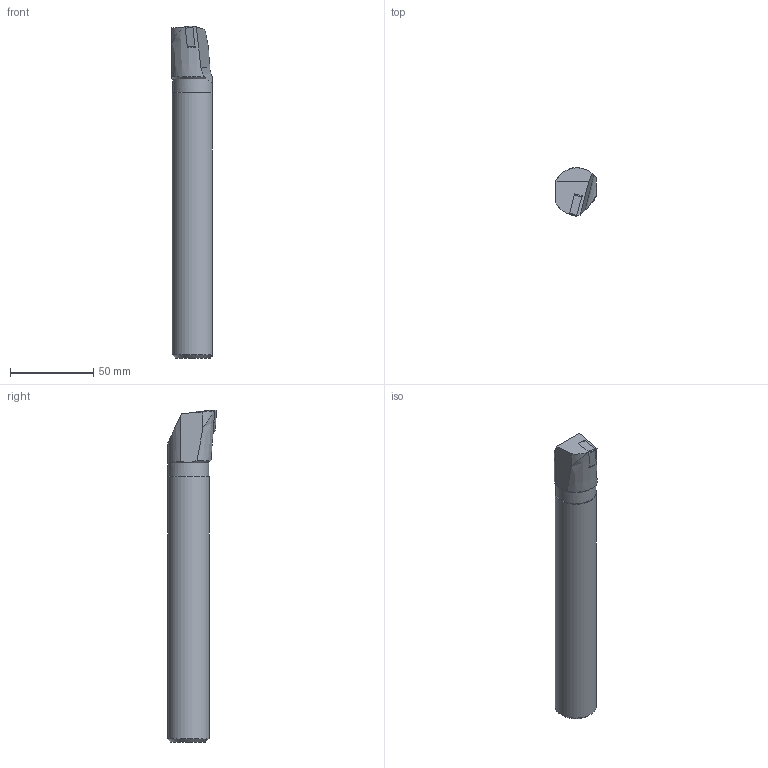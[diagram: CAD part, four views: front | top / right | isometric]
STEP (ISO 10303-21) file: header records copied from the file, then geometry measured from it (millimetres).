
FILE_DESCRIPTION(/* description */ (''),/* implementation_level */ '2;1');
FILE_NAME(/* name */ 'A25R-MCLNR-12-HAAS_210825.stp',/* time_stamp */ '2021-09-30T17:03:20+09:00',/* author */ (''),/* organization */ (''),/* preprocessor_version */ 'ST-DEVELOPER v15',/* originating_system */ 'SIEMENS PLM Software NX 8.5',/* authorisation */ '');
FILE_SCHEMA (('AP203_CONFIGURATION_CONTROLLED_3D_DESIGN_OF_MECHANICAL_PARTS_AND_ASSEMBLIES_MIM_LF { 1 0 10303 403 2 1 2}'));
Length unit declared in the file: millimetre
Products named in the file (1): userF2984F2A8mae
Bounding box: 24.1 x 29.49 x 200 mm (x, y, z)
Volume: 94894.5 mm3; surface area: 16916.8 mm2
Topology: 2 solids, 2 shells, 29 faces, 72 edges, 47 vertices
Faces by surface type: plane 12, cylinder 9, cone 7, bspline 1
Full cylindrical faces by diameter (mm): 5.16 x1
Entity records: 1007 total; most frequent: CARTESIAN_POINT 253, ORIENTED_EDGE 134, DIRECTION 133, EDGE_CURVE 67, AXIS2_PLACEMENT_3D 52, VERTEX_POINT 46, EDGE_LOOP 35, ADVANCED_FACE 29
